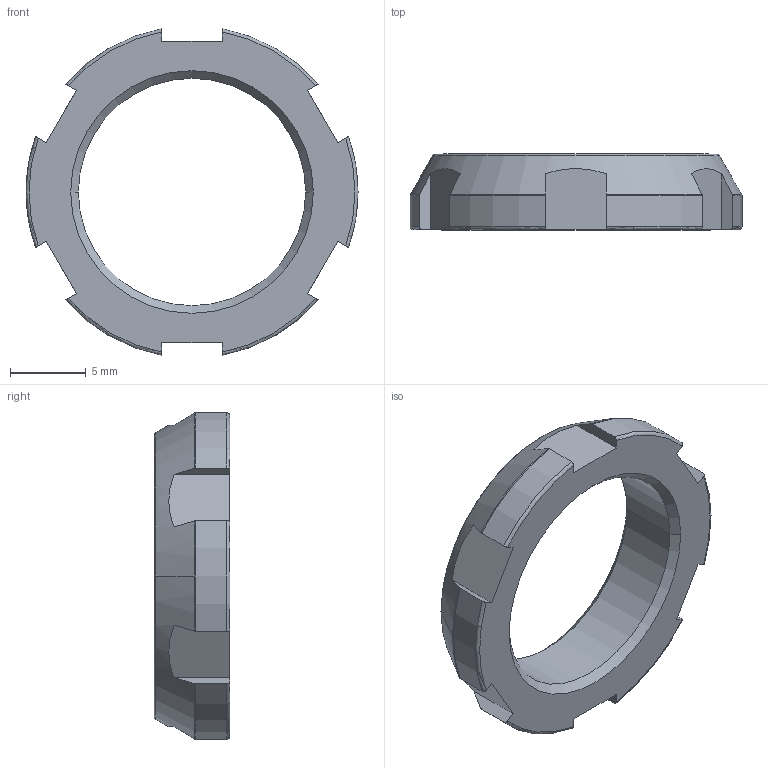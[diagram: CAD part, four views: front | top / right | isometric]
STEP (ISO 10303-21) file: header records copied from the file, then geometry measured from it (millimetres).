
FILE_DESCRIPTION((''),'2;1');
FILE_NAME('00007461','2015-04-07T',('mmeier'),(''),'PRO/ENGINEER BY PARAMETRIC TECHNOLOGY CORPORATION, 2013050','PRO/ENGINEER BY PARAMETRIC TECHNOLOGY CORPORATION, 2013050','');
FILE_SCHEMA(('AUTOMOTIVE_DESIGN { 1 0 10303 214 1 1 1 1 }'));
Length unit declared in the file: millimetre
Products named in the file (1): 00007461
Bounding box: 21.9 x 5 x 21.53 mm (x, y, z)
Volume: 779.3 mm3; surface area: 861.3 mm2
Topology: 1 solids, 1 shells, 48 faces, 132 edges, 86 vertices
Faces by surface type: plane 20, torus 14, cylinder 8, cone 6
Entity records: 2197 total; most frequent: CARTESIAN_POINT 484, ORIENTED_EDGE 264, DIRECTION 226, PRESENTATION_STYLE_ASSIGNMENT 133, STYLED_ITEM 133, CURVE_STYLE 132, EDGE_CURVE 132, AXIS2_PLACEMENT_3D 88
